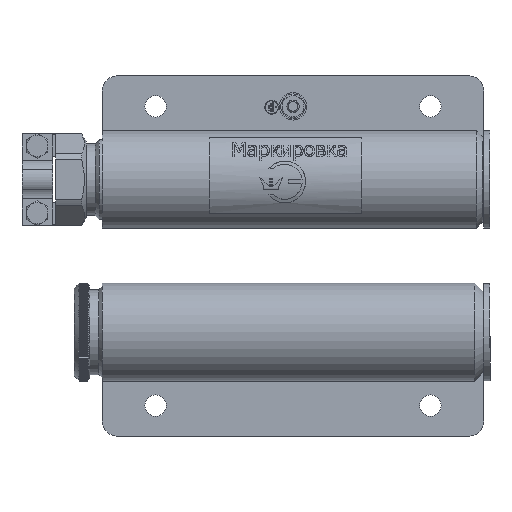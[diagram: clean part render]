
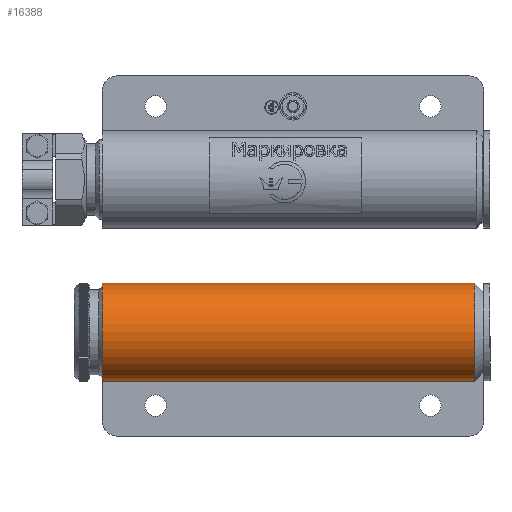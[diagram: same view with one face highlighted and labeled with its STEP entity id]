
A CAD part, top view. The second image highlights one B-rep face of the part: STEP entity #16388.
In plain terms, the highlighted cylindrical face has radius 16 mm (diameter 32 mm), a full revolution.
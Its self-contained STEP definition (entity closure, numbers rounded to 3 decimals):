
#3549=FACE_BOUND('',#4832,.T.);
#3826=FACE_OUTER_BOUND('',#4831,.T.);
#4831=EDGE_LOOP('',(#11092));
#4832=EDGE_LOOP('',(#11093));
#5729=CIRCLE('',#17549,16.);
#5730=CIRCLE('',#17550,16.);
#6462=VERTEX_POINT('',#23637);
#6463=VERTEX_POINT('',#23639);
#8227=EDGE_CURVE('',#6462,#6462,#5729,.T.);
#8228=EDGE_CURVE('',#6463,#6463,#5730,.T.);
#11092=ORIENTED_EDGE('',*,*,#8227,.T.);
#11093=ORIENTED_EDGE('',*,*,#8228,.F.);
#15059=CYLINDRICAL_SURFACE('',#17548,16.);
#16388=ADVANCED_FACE('',(#3826,#3549),#15059,.T.);
#17548=AXIS2_PLACEMENT_3D('',#23636,#19627,#19628);
#17549=AXIS2_PLACEMENT_3D('',#23638,#19629,#19630);
#17550=AXIS2_PLACEMENT_3D('',#23640,#19631,#19632);
#19627=DIRECTION('center_axis',(1.,0.,0.));
#19628=DIRECTION('ref_axis',(0.,-1.,0.));
#19629=DIRECTION('center_axis',(1.,0.,0.));
#19630=DIRECTION('ref_axis',(0.,0.,1.));
#19631=DIRECTION('center_axis',(1.,0.,0.));
#19632=DIRECTION('ref_axis',(0.,0.,1.));
#23636=CARTESIAN_POINT('Origin',(61.,-50.,0.));
#23637=CARTESIAN_POINT('',(0.,-66.,0.));
#23638=CARTESIAN_POINT('Origin',(0.,-50.,
0.));
#23639=CARTESIAN_POINT('',(122.,-66.,0.));
#23640=CARTESIAN_POINT('Origin',(122.,-50.,0.));
